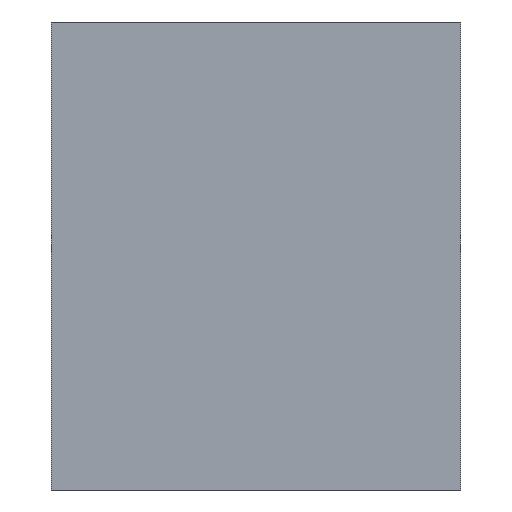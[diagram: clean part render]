
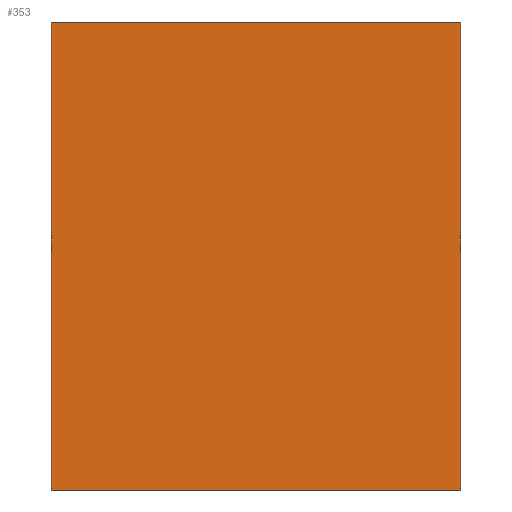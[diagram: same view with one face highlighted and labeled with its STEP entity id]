
A CAD part, left-side view. The second image highlights one B-rep face of the part: STEP entity #353.
In plain terms, the highlighted planar face has unit normal (-1, 0, 0).
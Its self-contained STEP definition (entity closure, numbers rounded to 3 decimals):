
#32=FACE_OUTER_BOUND($,#50,.T.);
#50=EDGE_LOOP($,(#308,#309,#310,#311));
#61=LINE($,#488,#107);
#89=LINE($,#548,#135);
#96=LINE($,#561,#142);
#97=LINE($,#563,#143);
#107=VECTOR($,#393,14.);
#135=VECTOR($,#447,16.);
#142=VECTOR($,#460,16.);
#143=VECTOR($,#463,14.);
#152=VERTEX_POINT($,#485);
#153=VERTEX_POINT($,#487);
#172=VERTEX_POINT($,#547);
#175=VERTEX_POINT($,#559);
#185=EDGE_CURVE($,#152,#153,#61,.T.);
#215=EDGE_CURVE($,#172,#153,#89,.T.);
#222=EDGE_CURVE($,#152,#175,#96,.T.);
#223=EDGE_CURVE($,#172,#175,#97,.T.);
#308=ORIENTED_EDGE($,*,*,#222,.T.);
#309=ORIENTED_EDGE($,*,*,#223,.F.);
#310=ORIENTED_EDGE($,*,*,#215,.T.);
#311=ORIENTED_EDGE($,*,*,#185,.F.);
#335=PLANE($,#376);
#353=ADVANCED_FACE($,(#32),#335,.T.);
#376=AXIS2_PLACEMENT_3D($,#562,#461,#462);
#393=DIRECTION($,(0.,1.,0.));
#447=DIRECTION($,(0.,0.,-1.));
#460=DIRECTION($,(0.,0.,1.));
#461=DIRECTION('center_axis',(-1.,0.,0.));
#462=DIRECTION('ref_axis',(0.,-1.,0.));
#463=DIRECTION($,(0.,-1.,0.));
#485=CARTESIAN_POINT('',(-5.19,-6.696,-8.));
#487=CARTESIAN_POINT('',(-5.19,7.304,-8.));
#488=CARTESIAN_POINT($,(-5.19,-6.696,-8.));
#547=CARTESIAN_POINT('',(-5.19,7.304,8.));
#548=CARTESIAN_POINT($,(-5.19,7.304,0.));
#559=CARTESIAN_POINT('',(-5.19,-6.696,8.));
#561=CARTESIAN_POINT($,(-5.19,-6.696,0.));
#562=CARTESIAN_POINT('Origin',(-5.19,7.304,0.));
#563=CARTESIAN_POINT($,(-5.19,-6.696,8.));
